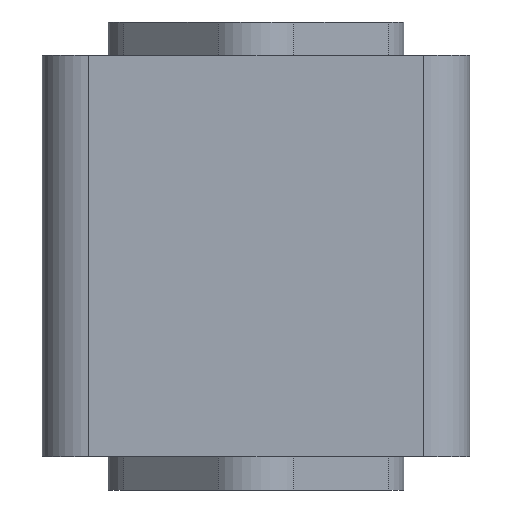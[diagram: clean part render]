
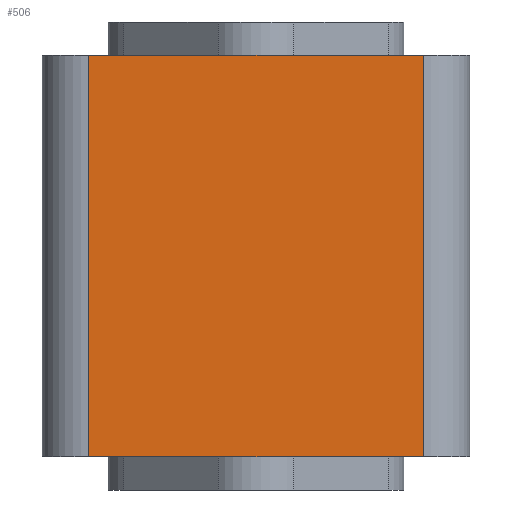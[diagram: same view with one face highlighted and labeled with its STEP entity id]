
A CAD part, front view. The second image highlights one B-rep face of the part: STEP entity #506.
In plain terms, the highlighted planar face has unit normal (0, -1, 0).
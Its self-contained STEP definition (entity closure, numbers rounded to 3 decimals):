
#448=CARTESIAN_POINT('',(12.5,-16.,30.0));
#449=VERTEX_POINT('',#448);
#457=CARTESIAN_POINT('',(12.5,-16.,0.0));
#458=VERTEX_POINT('',#457);
#459=CARTESIAN_POINT('',(12.5,-16.,0.0));
#460=DIRECTION('',(0.0,0.0,1.0));
#461=VECTOR('',#460,30.0);
#462=LINE('',#459,#461);
#463=EDGE_CURVE('',#458,#449,#462,.T.);
#476=CARTESIAN_POINT('',(12.5,-16.,0.0));
#477=DIRECTION('',(0.0,-1.0,0.0));
#478=DIRECTION('',(0.0,0.0,-1.0));
#479=AXIS2_PLACEMENT_3D('',#476,#477,#478);
#480=PLANE('',#479);
#481=CARTESIAN_POINT('',(-12.5,-16.,30.0));
#482=VERTEX_POINT('',#481);
#483=CARTESIAN_POINT('',(12.5,-16.,30.0));
#484=DIRECTION('',(-1.0,0.0,0.0));
#485=VECTOR('',#484,25.);
#486=LINE('',#483,#485);
#487=EDGE_CURVE('',#449,#482,#486,.T.);
#488=ORIENTED_EDGE('',*,*,#487,.T.);
#489=CARTESIAN_POINT('',(-12.5,-16.,0.0));
#490=VERTEX_POINT('',#489);
#491=CARTESIAN_POINT('',(-12.5,-16.,0.0));
#492=DIRECTION('',(0.0,0.0,1.0));
#493=VECTOR('',#492,30.0);
#494=LINE('',#491,#493);
#495=EDGE_CURVE('',#490,#482,#494,.T.);
#496=ORIENTED_EDGE('',*,*,#495,.F.);
#497=CARTESIAN_POINT('',(-12.5,-16.,0.0));
#498=DIRECTION('',(1.0,0.0,0.0));
#499=VECTOR('',#498,25.);
#500=LINE('',#497,#499);
#501=EDGE_CURVE('',#490,#458,#500,.T.);
#502=ORIENTED_EDGE('',*,*,#501,.T.);
#503=ORIENTED_EDGE('',*,*,#463,.T.);
#504=EDGE_LOOP('',(#488,#496,#502,#503));
#505=FACE_OUTER_BOUND('',#504,.T.);
#506=ADVANCED_FACE('',(#505),#480,.T.);
